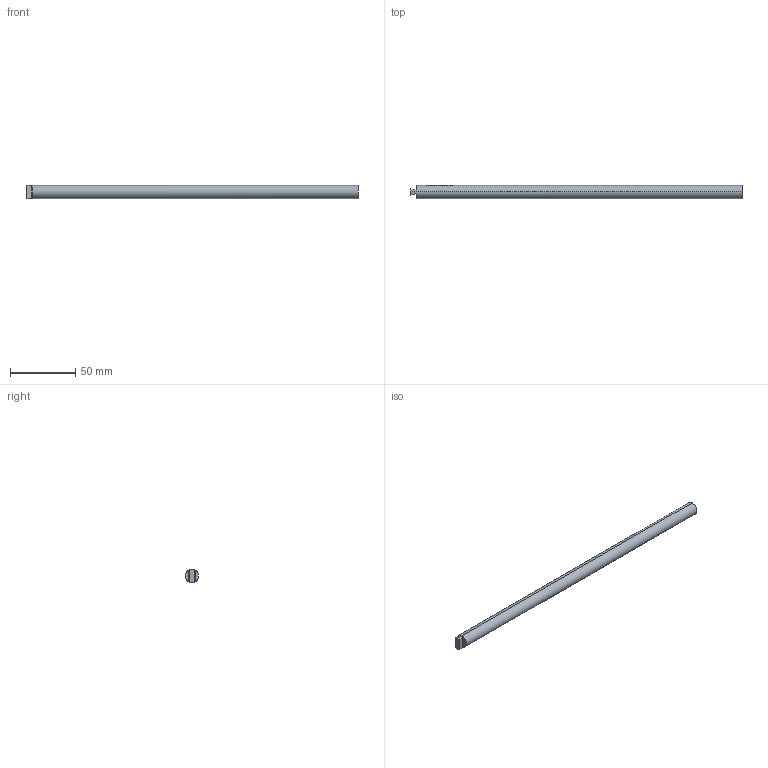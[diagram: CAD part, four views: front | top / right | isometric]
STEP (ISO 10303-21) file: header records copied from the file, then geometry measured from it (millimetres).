
FILE_DESCRIPTION (( 'STEP AP203' ), '1' );
FILE_NAME ('ALR10_2020-09-29.STEP', '2021-01-11T21:27:41', ( '' ), ( '' ), 'SwSTEP 2.0', 'SolidWorks 2020', '' );
FILE_SCHEMA (( 'CONFIG_CONTROL_DESIGN' ));
Length unit declared in the file: millimetre
Products named in the file (1): ALR10_2020-09-29
Bounding box: 254 x 10 x 10 mm (x, y, z)
Volume: 19742.8 mm3; surface area: 8141.9 mm2
Topology: 1 solids, 1 shells, 97 faces, 249 edges, 166 vertices
Faces by surface type: plane 62, bspline 21, cylinder 14
Entity records: 3638 total; most frequent: CARTESIAN_POINT 1528, ORIENTED_EDGE 498, DIRECTION 303, EDGE_CURVE 249, VERTEX_POINT 166, LINE 133, VECTOR 133, EDGE_LOOP 109
